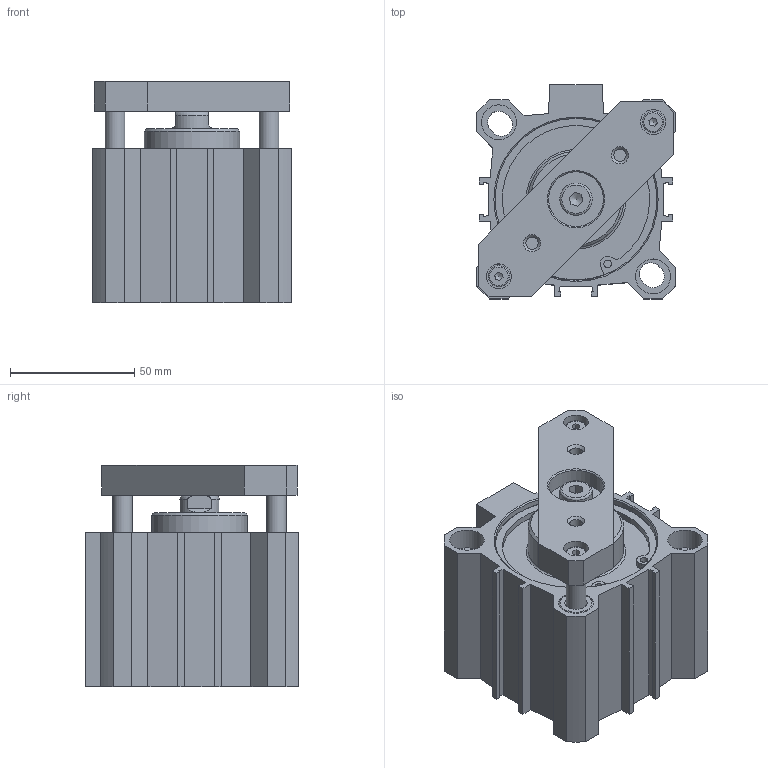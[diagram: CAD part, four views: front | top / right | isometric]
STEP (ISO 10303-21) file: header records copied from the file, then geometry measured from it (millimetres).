
FILE_DESCRIPTION(/* description */ ('Unknown'),/* implementation_level */ '2;1');
FILE_NAME(/* name */ 'FINT 63_20',/* time_stamp */ '2026-05-12T11:10:45+02:00',/* author */ ('Unknown'),/* organization */ ('Unknown'),/* preprocessor_version */ 'ST-DEVELOPER v18.102',/* originating_system */ 'Solid Edge',/* authorisation */ 'Unknown');
FILE_SCHEMA (('AUTOMOTIVE_DESIGN {1 0 10303 214 3 1 1}'));
Length unit declared in the file: millimetre
Products named in the file (7): FINT 63_20; Führungsstange; Profilrohr; Platte; Kolbenstange; Kit_1; Kit_2
Assembly tree (7 placements, depth 2):
  FINT 63_20
    Führungsstange  x2
    Profilrohr
    Platte
    Kolbenstange
    Kit_1
    Kit_2
Bounding box: 80 x 86 x 89 mm (x, y, z)
Volume: 282608.2 mm3; surface area: 104684.3 mm2
Topology: 9 solids, 10 shells, 323 faces, 760 edges, 487 vertices
Faces by surface type: plane 170, cylinder 88, cone 51, torus 14
Full cylindrical faces by diameter (mm): 3 x4, 3.2 x2, 4.134 x2, 4.917 x2, 5 x2, 5.8 x2, 6.647 x1, 8 x4, 8.25 x1, 8.5 x2, 8.566 x4, 10 x2, 13 x1, 13.8 x2, 14 x4, 16 x2, 16.54 x1, 17.7 x1, 18 x1, 20.5 x1, 22 x1, 38.5 x1, 47 x1, 63 x2, 64.7 x4, 65.1 x2, 68.2 x2
Entity records: 10521 total; most frequent: CARTESIAN_POINT 1578, DIRECTION 1454, ORIENTED_EDGE 1214, EDGE_CURVE 607, AXIS2_PLACEMENT_3D 552, FACE_BOUND 487, EDGE_LOOP 482, VERTEX_POINT 456
